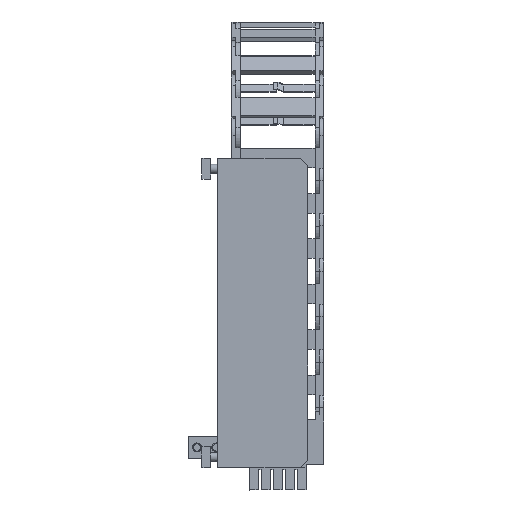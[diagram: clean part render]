
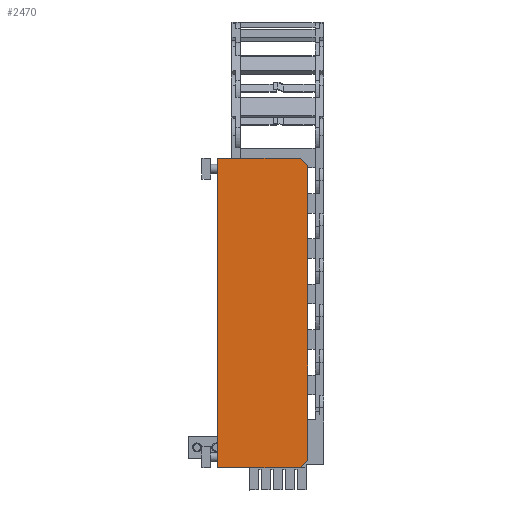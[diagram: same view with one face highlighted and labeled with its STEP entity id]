
A CAD part, front view. The second image highlights one B-rep face of the part: STEP entity #2470.
In plain terms, the highlighted planar face has unit normal (0, -1, 0).
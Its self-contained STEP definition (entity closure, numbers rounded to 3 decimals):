
#2470 = ADVANCED_FACE( '', ( #6208 ), #6209, .T. );
#6208 = FACE_OUTER_BOUND( '', #11441, .T. );
#6209 = PLANE( '', #11442 );
#11441 = EDGE_LOOP( '', ( #18567, #18568, #18569, #18570, #18571, #18572 ) );
#11442 = AXIS2_PLACEMENT_3D( '', #18573, #18574, #18575 );
#18567 = ORIENTED_EDGE( '', *, *, #33343, .F. );
#18568 = ORIENTED_EDGE( '', *, *, #33344, .T. );
#18569 = ORIENTED_EDGE( '', *, *, #33345, .F. );
#18570 = ORIENTED_EDGE( '', *, *, #33346, .T. );
#18571 = ORIENTED_EDGE( '', *, *, #33347, .T. );
#18572 = ORIENTED_EDGE( '', *, *, #33348, .T. );
#18573 = CARTESIAN_POINT( '', ( 60., 0., 207. ) );
#18574 = DIRECTION( '', ( 0., -1., 0. ) );
#18575 = DIRECTION( '', ( 1., 0., 0. ) );
#33343 = EDGE_CURVE( '', #41091, #41092, #41093, .T. );
#33344 = EDGE_CURVE( '', #41091, #41094, #41095, .T. );
#33345 = EDGE_CURVE( '', #41096, #41094, #41097, .T. );
#33346 = EDGE_CURVE( '', #41096, #41098, #41099, .F. );
#33347 = EDGE_CURVE( '', #41098, #41100, #41101, .T. );
#33348 = EDGE_CURVE( '', #41100, #41092, #41102, .T. );
#41091 = VERTEX_POINT( '', #51684 );
#41092 = VERTEX_POINT( '', #51685 );
#41093 = LINE( '', #51686, #51687 );
#41094 = VERTEX_POINT( '', #51688 );
#41095 = LINE( '', #51689, #51690 );
#41096 = VERTEX_POINT( '', #51691 );
#41097 = LINE( '', #51692, #51693 );
#41098 = VERTEX_POINT( '', #51694 );
#41099 = LINE( '', #51695, #51696 );
#41100 = VERTEX_POINT( '', #51697 );
#41101 = LINE( '', #51698, #51699 );
#41102 = LINE( '', #51700, #51701 );
#51684 = CARTESIAN_POINT( '', ( 55., 0., 0. ) );
#51685 = CARTESIAN_POINT( '', ( 0., 0., 0. ) );
#51686 = CARTESIAN_POINT( '', ( 60., 0., 0. ) );
#51687 = VECTOR( '', #62387, 1000. );
#51688 = CARTESIAN_POINT( '', ( 60., 0., 5. ) );
#51689 = CARTESIAN_POINT( '', ( 161., 0., 106. ) );
#51690 = VECTOR( '', #62388, 1000. );
#51691 = CARTESIAN_POINT( '', ( 60., 0., 202. ) );
#51692 = CARTESIAN_POINT( '', ( 60., 0., 207. ) );
#51693 = VECTOR( '', #62389, 1000. );
#51694 = CARTESIAN_POINT( '', ( 55., 0., 207. ) );
#51695 = CARTESIAN_POINT( '', ( 57.5, 0., 204.5 ) );
#51696 = VECTOR( '', #62390, 1000. );
#51697 = CARTESIAN_POINT( '', ( 0., 0., 207. ) );
#51698 = CARTESIAN_POINT( '', ( 60., 0., 207. ) );
#51699 = VECTOR( '', #62391, 1000. );
#51700 = CARTESIAN_POINT( '', ( 0., 0., 207. ) );
#51701 = VECTOR( '', #62392, 1000. );
#62387 = DIRECTION( '', ( -1., 0., 0. ) );
#62388 = DIRECTION( '', ( 0.707, 0., 0.707 ) );
#62389 = DIRECTION( '', ( 0., 0., -1. ) );
#62390 = DIRECTION( '', ( 0.707, 0., -0.707 ) );
#62391 = DIRECTION( '', ( -1., 0., 0. ) );
#62392 = DIRECTION( '', ( 0., 0., -1. ) );
